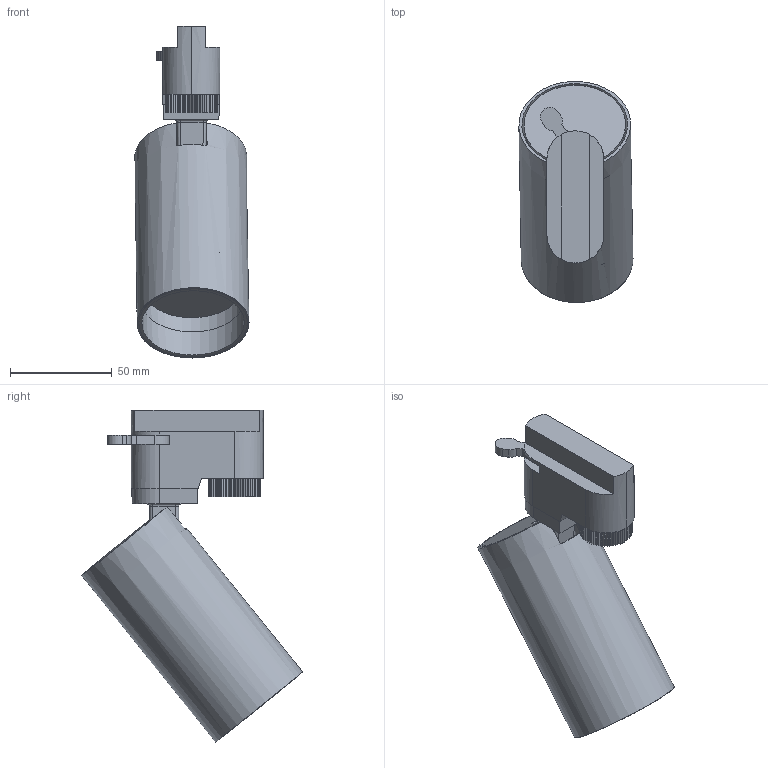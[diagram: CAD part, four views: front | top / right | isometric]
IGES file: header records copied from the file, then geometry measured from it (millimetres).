
Start section: SolidWorks IGES file using analytic representation for surfaces
Global section: file name: X:\PRODUKT\Modele 3D_WWW\_KOLEKCJE WWW\PROFILE SYSTEM\PROFILE-MONO-7583-7585-7582\PROFILE-MONO-7583-7585-7582 .IGS; native system: SolidWorks 2021; preprocessor: SolidWorks 2021; author: gabriela.tworek; date: 220607.090716; units: millimetre
Bounding box: 56.08 x 108.65 x 163.19 mm (x, y, z)
Surface area: 67833 mm2 (no closed solid volume)
Topology: 0 solids, 0 shells, 205 faces, 1175 edges, 1166 vertices
Faces by surface type: bspline 172, revolution 33
